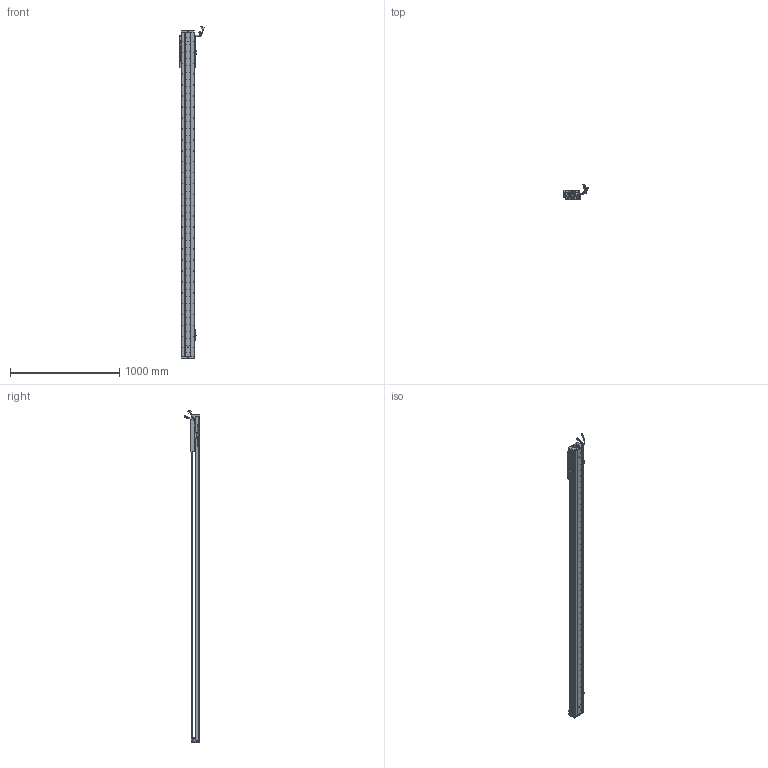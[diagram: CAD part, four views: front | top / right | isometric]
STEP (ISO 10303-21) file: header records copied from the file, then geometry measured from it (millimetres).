
FILE_DESCRIPTION (( 'STEP AP203' ), '1' );
FILE_NAME ('Z4-RY120D-1-L500-B-K.SLDASM_2600.step', '2021-05-17T06:10:59', ( '盈信电脑' ), ( '东莞市道滘镇水果街19号' ), 'SwSTEP 2.0', 'SolidWorks 2016', '' );
FILE_SCHEMA (( 'CONFIG_CONTROL_DESIGN' ));
Length unit declared in the file: millimetre
Products named in the file (37): 140蚥薯蝶輸; Z4-RY120铝滑块（21款）; SCREW-M1.6-2; 672嫖萇羲壽假蚾釱; HARNESS-Part-2; SCALE; Z-120詩湍傷裔啣; SCALE-Part-1; SCREW-M1.7; HARNESS; SHIELDPLATE; LABEL-Part-1; Z4-RY120-L500詩湍100mm遵_2600; 榋妏寠巭燃_暯_M2_2; 080黍杅芛假蚾釱21遴; COVER; Z-RY120D詩湍奻揤裔; SCREW-M1.7-1; 140雄赽晤鎢ん堤盄; 120-Z-臏賑輸盄裔(21遴); Z4-RY120D-1-L500-B-K.SLDASM_2600; SEAL-Part-1; SCREW-M1.6; SCREW-M1.6-3; Z4-RY120-500-倰第菁釱_2600; 覜茼ん672; PBU_SHEET; RY100FB-遵嫖萇覜茼え; SCREW-M1.6-1; HARNESS-Part-1; Z-RY120D詩湍狟揤裔; LABEL; PSLH080_PSLF2; SEAL; COVER-Part-1; HOLDER0; SCALE-Part-2
Assembly tree (43 placements, depth 4):
  Z4-RY120D-1-L500-B-K.SLDASM_2600
    Z4-RY120-500-倰第菁釱_2600
    覜茼ん672  x3
    672嫖萇羲壽假蚾釱  x2
    Z4-RY120铝滑块（21款）
    PSLH080_PSLF2
      SCALE
        SCALE-Part-1
        SCALE-Part-2
      HARNESS
        HARNESS-Part-1
        HARNESS-Part-2
      LABEL
        LABEL-Part-1
      COVER
        COVER-Part-1
      SEAL
        SEAL-Part-1
      榋妏寠巭燃_暯_M2_2
      SHIELDPLATE
      SCREW-M1.7
      SCREW-M1.7-1
      PBU_SHEET
      SCREW-M1.6
      SCREW-M1.6-1
      SCREW-M1.6-2
      SCREW-M1.6-3
      HOLDER0
    080黍杅芛假蚾釱21遴
    120-Z-臏賑輸盄裔(21遴)
    140雄赽晤鎢ん堤盄
    140蚥薯蝶輸  x2
    RY100FB-遵嫖萇覜茼え
    Z-120詩湍傷裔啣  x2
    Z-RY120D詩湍奻揤裔  x2
    Z-RY120D詩湍狟揤裔  x2
    Z4-RY120-L500詩湍100mm遵_2600
Bounding box: 222.83 x 140.94 x 3038.99 mm (x, y, z)
Volume: 7189452.2 mm3; surface area: 2490902.8 mm2
Topology: 38 solids, 38 shells, 3881 faces, 11130 edges, 7018 vertices
Faces by surface type: cylinder 2076, plane 1273, cone 410, torus 69, bspline 53
Entity records: 132133 total; most frequent: CARTESIAN_POINT 41002, ORIENTED_EDGE 18964, DIRECTION 17270, EDGE_CURVE 9482, AXIS2_PLACEMENT_3D 6404, VERTEX_POINT 6138, VECTOR 4462, LINE 4462
